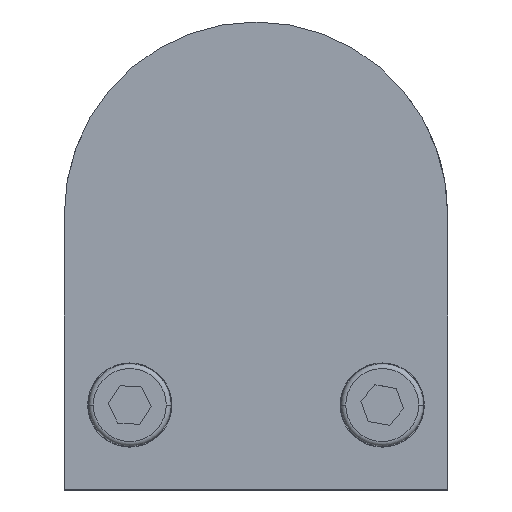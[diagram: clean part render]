
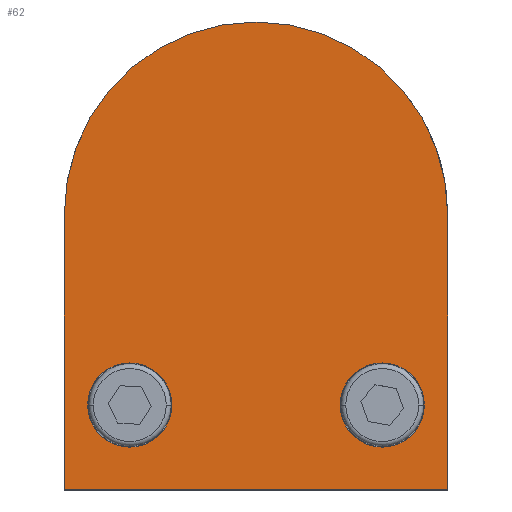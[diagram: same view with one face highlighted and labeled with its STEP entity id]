
A CAD part, top view. The second image highlights one B-rep face of the part: STEP entity #62.
In plain terms, the highlighted planar face has unit normal (0, 0, 1).
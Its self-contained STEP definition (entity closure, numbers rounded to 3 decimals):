
#34 = EDGE_LOOP ( 'NONE', ( #2761, #1645 ) ) ;
#48 = CARTESIAN_POINT ( 'NONE',  ( -9., 39.038, 14.25 ) ) ;
#51 = VERTEX_POINT ( 'NONE', #1354 ) ;
#62 = ADVANCED_FACE ( 'NONE', ( #891, #867, #2971 ), #1412, .T. ) ;
#204 = EDGE_CURVE ( 'NONE', #551, #1968, #2712, .T. ) ;
#269 = CARTESIAN_POINT ( 'NONE',  ( 0., 59.5, 14.25 ) ) ;
#277 = DIRECTION ( 'NONE',  ( 1., 0., 0. ) ) ;
#325 = ORIENTED_EDGE ( 'NONE', *, *, #3291, .F. ) ;
#427 = CARTESIAN_POINT ( 'NONE',  ( 0., 59.5, 14.25 ) ) ;
#497 = DIRECTION ( 'NONE',  ( 1., 0., 0. ) ) ;
#551 = VERTEX_POINT ( 'NONE', #1995 ) ;
#556 = CARTESIAN_POINT ( 'NONE',  ( -20.5, 0., 14.25 ) ) ;
#576 = AXIS2_PLACEMENT_3D ( 'NONE', #269, #3343, #497 ) ;
#589 = ORIENTED_EDGE ( 'NONE', *, *, #1612, .T. ) ;
#633 = VERTEX_POINT ( 'NONE', #2550 ) ;
#695 = CIRCLE ( 'NONE', #1281, 4.5 ) ;
#733 = CARTESIAN_POINT ( 'NONE',  ( -13.5, 39.038, 14.25 ) ) ;
#748 = EDGE_LOOP ( 'NONE', ( #1289, #1259 ) ) ;
#797 = DIRECTION ( 'NONE',  ( 0., -1., 0. ) ) ;
#809 = ORIENTED_EDGE ( 'NONE', *, *, #953, .T. ) ;
#817 = VECTOR ( 'NONE', #2768, 1000. ) ;
#867 = FACE_BOUND ( 'NONE', #34, .T. ) ;
#891 = FACE_BOUND ( 'NONE', #748, .T. ) ;
#909 = DIRECTION ( 'NONE',  ( 0., 0., 1. ) ) ;
#953 = EDGE_CURVE ( 'NONE', #3265, #51, #2829, .T. ) ;
#1163 = VECTOR ( 'NONE', #797, 1000. ) ;
#1259 = ORIENTED_EDGE ( 'NONE', *, *, #204, .F. ) ;
#1268 = AXIS2_PLACEMENT_3D ( 'NONE', #3309, #2299, #3005 ) ;
#1274 = CARTESIAN_POINT ( 'NONE',  ( 18., 39.038, 14.25 ) ) ;
#1281 = AXIS2_PLACEMENT_3D ( 'NONE', #2582, #2330, #1888 ) ;
#1289 = ORIENTED_EDGE ( 'NONE', *, *, #3184, .F. ) ;
#1331 = ORIENTED_EDGE ( 'NONE', *, *, #3294, .T. ) ;
#1354 = CARTESIAN_POINT ( 'NONE',  ( -20.5, 30., 14.25 ) ) ;
#1412 = PLANE ( 'NONE',  #1964 ) ;
#1416 = AXIS2_PLACEMENT_3D ( 'NONE', #1480, #2595, #277 ) ;
#1480 = CARTESIAN_POINT ( 'NONE',  ( 13.5, 39.038, 14.25 ) ) ;
#1540 = LINE ( 'NONE', #3330, #2837 ) ;
#1552 = AXIS2_PLACEMENT_3D ( 'NONE', #733, #2287, #2002 ) ;
#1605 = CIRCLE ( 'NONE', #1552, 4.5 ) ;
#1612 = EDGE_CURVE ( 'NONE', #2617, #3061, #3067, .T. ) ;
#1645 = ORIENTED_EDGE ( 'NONE', *, *, #2502, .F. ) ;
#1708 = CARTESIAN_POINT ( 'NONE',  ( 20.5, 59.5, 14.25 ) ) ;
#1888 = DIRECTION ( 'NONE',  ( 1., 0., 0. ) ) ;
#1939 = DIRECTION ( 'NONE',  ( 1., 0., 0. ) ) ;
#1959 = EDGE_CURVE ( 'NONE', #2102, #633, #695, .T. ) ;
#1961 = EDGE_LOOP ( 'NONE', ( #325, #589, #1331, #809 ) ) ;
#1964 = AXIS2_PLACEMENT_3D ( 'NONE', #427, #909, #1939 ) ;
#1968 = VERTEX_POINT ( 'NONE', #48 ) ;
#1995 = CARTESIAN_POINT ( 'NONE',  ( -18., 39.038, 14.25 ) ) ;
#1996 = CIRCLE ( 'NONE', #576, 20.5 ) ;
#2002 = DIRECTION ( 'NONE',  ( 1., 0., 0. ) ) ;
#2102 = VERTEX_POINT ( 'NONE', #1274 ) ;
#2287 = DIRECTION ( 'NONE',  ( 0., 0., 1. ) ) ;
#2299 = DIRECTION ( 'NONE',  ( 0., 0., 1. ) ) ;
#2330 = DIRECTION ( 'NONE',  ( 0., 0., 1. ) ) ;
#2361 = CIRCLE ( 'NONE', #1416, 4.5 ) ;
#2502 = EDGE_CURVE ( 'NONE', #633, #2102, #2361, .T. ) ;
#2550 = CARTESIAN_POINT ( 'NONE',  ( 9., 39.038, 14.25 ) ) ;
#2582 = CARTESIAN_POINT ( 'NONE',  ( 13.5, 39.038, 14.25 ) ) ;
#2595 = DIRECTION ( 'NONE',  ( 0., 0., 1. ) ) ;
#2617 = VERTEX_POINT ( 'NONE', #2642 ) ;
#2642 = CARTESIAN_POINT ( 'NONE',  ( 20.5, 30., 14.25 ) ) ;
#2712 = CIRCLE ( 'NONE', #1268, 4.5 ) ;
#2756 = CARTESIAN_POINT ( 'NONE',  ( 20.5, 0., 14.25 ) ) ;
#2761 = ORIENTED_EDGE ( 'NONE', *, *, #1959, .F. ) ;
#2768 = DIRECTION ( 'NONE',  ( 0., 1., 0. ) ) ;
#2811 = DIRECTION ( 'NONE',  ( -1., 0., 0. ) ) ;
#2829 = LINE ( 'NONE', #556, #1163 ) ;
#2837 = VECTOR ( 'NONE', #2811, 1000. ) ;
#2971 = FACE_OUTER_BOUND ( 'NONE', #1961, .T. ) ;
#3005 = DIRECTION ( 'NONE',  ( 1., 0., 0. ) ) ;
#3061 = VERTEX_POINT ( 'NONE', #1708 ) ;
#3067 = LINE ( 'NONE', #2756, #817 ) ;
#3122 = CARTESIAN_POINT ( 'NONE',  ( -20.5, 59.5, 14.25 ) ) ;
#3184 = EDGE_CURVE ( 'NONE', #1968, #551, #1605, .T. ) ;
#3265 = VERTEX_POINT ( 'NONE', #3122 ) ;
#3291 = EDGE_CURVE ( 'NONE', #2617, #51, #1540, .T. ) ;
#3294 = EDGE_CURVE ( 'NONE', #3061, #3265, #1996, .T. ) ;
#3309 = CARTESIAN_POINT ( 'NONE',  ( -13.5, 39.038, 14.25 ) ) ;
#3330 = CARTESIAN_POINT ( 'NONE',  ( 0., 30., 14.25 ) ) ;
#3343 = DIRECTION ( 'NONE',  ( 0., 0., 1. ) ) ;
